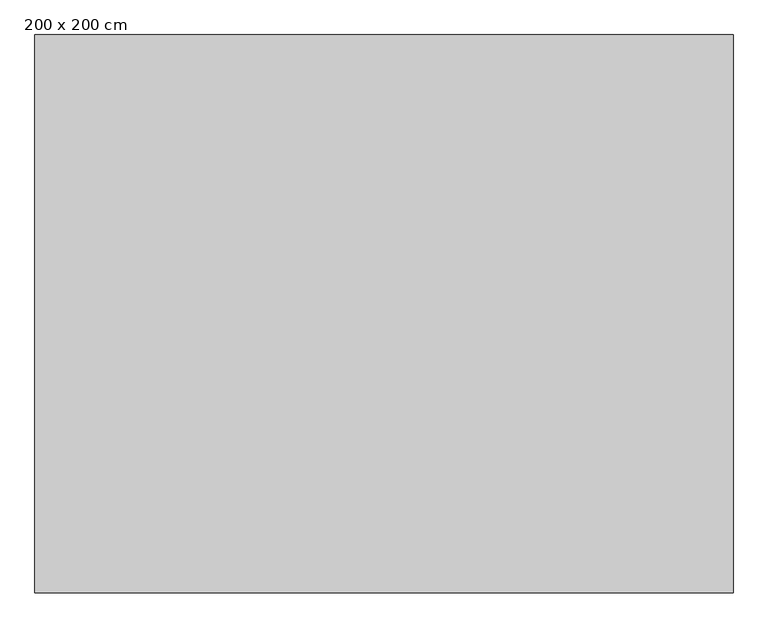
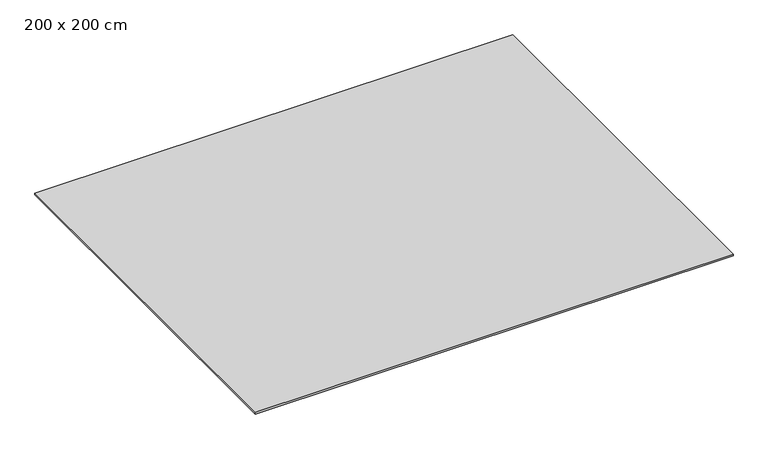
"""IFC4 building model written with IfcOpenShell, lengths in millimetres: furniture geometry, Rectangular_Rug__Tapete_retangular_12767 : 200 x 200 cm."""

from ifc_helpers import new_model, si_unit, origin, origin_with_axes, place, context, project, spatial, polyline, outline, extrude, source, transform, mapped, element, save


def furniture_200_x_200_cm_f9d72c47(model_context):
    return source(origin(), model_context, "Body", "SweptSolid", [
        extrude(outline(polyline([(1250.0, 1000.0), (1250.0, -1000.0), (-1250.0, -1000.0), (-1250.0, 1000.0), (1250.0, 1000.0)])), origin_with_axes(), (0.0, 0.0, 1.0), 10.0),
    ])


if __name__ == "__main__":
    model = new_model("IFC4")
    model_context = context("Model", 3, world=origin())
    ifc_project = project(units=[si_unit("LENGTHUNIT", "METRE", prefix="MILLI")], contexts=[model_context])
    site = spatial("IfcSite", under=ifc_project)
    building = spatial("IfcBuilding", under=site)
    placement = place(None, origin())
    furniture_200_x_200_cm_shape = furniture_200_x_200_cm_f9d72c47(model_context)
    element("IfcFurniture", 1, ObjectType="Rectangular_Rug__Tapete_retangular_12767 : 200 x 200 cm", at=placement, inside=building, context=model_context, shape_type="MappedRepresentation", body=[
        mapped(furniture_200_x_200_cm_shape, transform((0.0, 0.0, 0.0), x_axis=(1.0, 0.0, 0.0), y_axis=(0.0, 1.0, 0.0), z_axis=(0.0, 0.0, 1.0))),
    ])
    save(model, "model.ifc")
